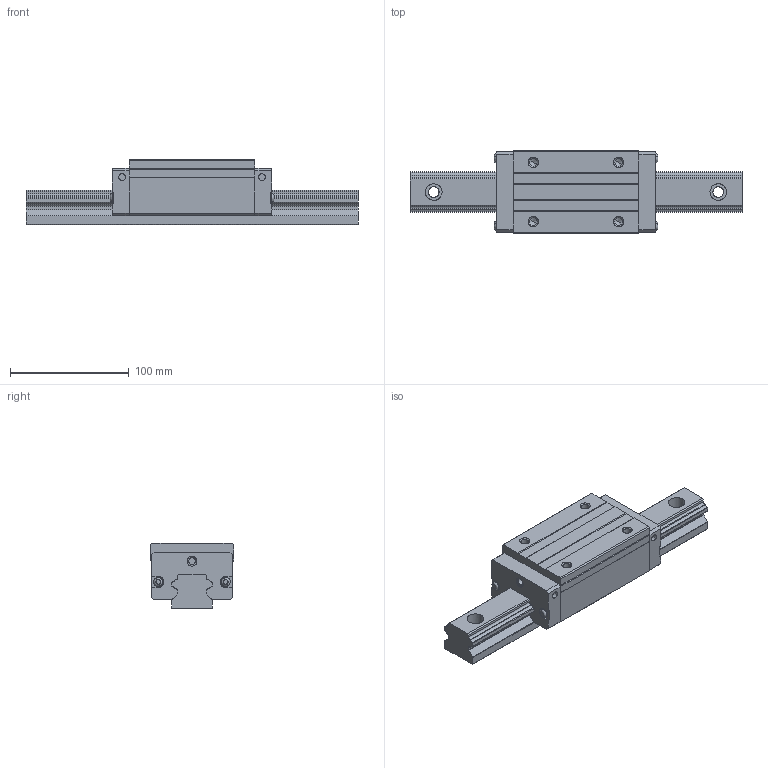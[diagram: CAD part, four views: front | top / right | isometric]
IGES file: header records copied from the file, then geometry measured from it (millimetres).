
Start section: START RECORD GO HERE.
Global section: file name: SBG35_SLL.igs; native system: IBM CATIA IGES - CATIA Version 5 Release 16 ; preprocessor: CATIA Version 5 Release 16 ; author: mycom; organization: RD03; date: 20070228.142512; units: millimetre
Bounding box: 280 x 70 x 55 mm (x, y, z)
Surface area: 95223.6 mm2 (no closed solid volume)
Topology: 0 solids, 0 shells, 280 faces, 1494 edges, 1484 vertices
Faces by surface type: revolution 157, plane 123
